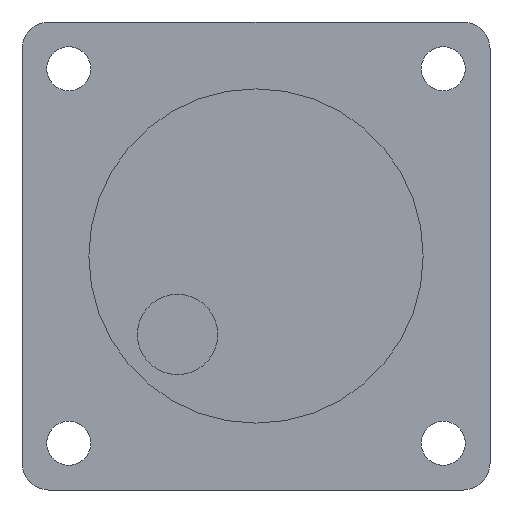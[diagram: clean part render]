
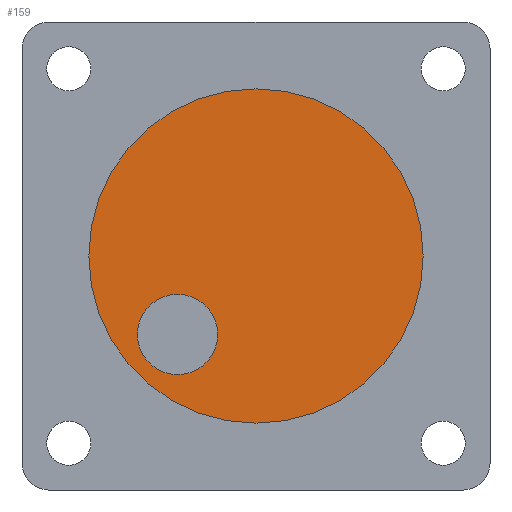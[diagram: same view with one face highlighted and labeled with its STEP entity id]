
A CAD part, front view. The second image highlights one B-rep face of the part: STEP entity #159.
In plain terms, the highlighted planar face has unit normal (0, -1, 0).
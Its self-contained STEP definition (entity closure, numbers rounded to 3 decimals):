
#4 = CARTESIAN_POINT ( 'NONE',  ( -5.869, 0., -5.869 ) ) ;
#32 = DIRECTION ( 'NONE',  ( 0., 1., 0. ) ) ;
#46 = FACE_OUTER_BOUND ( 'NONE', #601, .T. ) ;
#47 = CARTESIAN_POINT ( 'NONE',  ( 0., 0., 0. ) ) ;
#74 = CARTESIAN_POINT ( 'NONE',  ( 0., 0., -12.5 ) ) ;
#75 = ORIENTED_EDGE ( 'NONE', *, *, #848, .F. ) ;
#159 = ADVANCED_FACE ( 'NONE', ( #245, #46 ), #1777, .F. ) ;
#180 = CIRCLE ( 'NONE', #635, 3. ) ;
#185 = CARTESIAN_POINT ( 'NONE',  ( 0., 0., 12.5 ) ) ;
#202 = DIRECTION ( 'NONE',  ( 0., 1., 0. ) ) ;
#222 = EDGE_LOOP ( 'NONE', ( #740, #970 ) ) ;
#245 = FACE_BOUND ( 'NONE', #222, .T. ) ;
#253 = CARTESIAN_POINT ( 'NONE',  ( 0., 0., 0. ) ) ;
#258 = CARTESIAN_POINT ( 'NONE',  ( -5.869, 0., -2.869 ) ) ;
#341 = VERTEX_POINT ( 'NONE', #185 ) ;
#382 = VERTEX_POINT ( 'NONE', #74 ) ;
#419 = CIRCLE ( 'NONE', #505, 3. ) ;
#444 = AXIS2_PLACEMENT_3D ( 'NONE', #253, #1356, #951 ) ;
#488 = CIRCLE ( 'NONE', #1174, 12.5 ) ;
#505 = AXIS2_PLACEMENT_3D ( 'NONE', #1217, #664, #1674 ) ;
#596 = CARTESIAN_POINT ( 'NONE',  ( 0., 0., 0. ) ) ;
#601 = EDGE_LOOP ( 'NONE', ( #1720, #75 ) ) ;
#635 = AXIS2_PLACEMENT_3D ( 'NONE', #4, #1530, #708 ) ;
#664 = DIRECTION ( 'NONE',  ( 0., -1., 0. ) ) ;
#708 = DIRECTION ( 'NONE',  ( 0., 0., 1. ) ) ;
#740 = ORIENTED_EDGE ( 'NONE', *, *, #1550, .F. ) ;
#848 = EDGE_CURVE ( 'NONE', #341, #382, #488, .T. ) ;
#951 = DIRECTION ( 'NONE',  ( 0., 0., 1. ) ) ;
#970 = ORIENTED_EDGE ( 'NONE', *, *, #1182, .F. ) ;
#1029 = DIRECTION ( 'NONE',  ( 0., 0., 1. ) ) ;
#1056 = VERTEX_POINT ( 'NONE', #258 ) ;
#1122 = AXIS2_PLACEMENT_3D ( 'NONE', #47, #202, #1029 ) ;
#1170 = DIRECTION ( 'NONE',  ( 0., 0., 1. ) ) ;
#1174 = AXIS2_PLACEMENT_3D ( 'NONE', #596, #32, #1170 ) ;
#1182 = EDGE_CURVE ( 'NONE', #1814, #1056, #180, .T. ) ;
#1217 = CARTESIAN_POINT ( 'NONE',  ( -5.869, 0., -5.869 ) ) ;
#1296 = CARTESIAN_POINT ( 'NONE',  ( -5.869, 0., -8.869 ) ) ;
#1328 = CIRCLE ( 'NONE', #1122, 12.5 ) ;
#1356 = DIRECTION ( 'NONE',  ( 0., 1., 0. ) ) ;
#1360 = EDGE_CURVE ( 'NONE', #382, #341, #1328, .T. ) ;
#1530 = DIRECTION ( 'NONE',  ( 0., -1., 0. ) ) ;
#1550 = EDGE_CURVE ( 'NONE', #1056, #1814, #419, .T. ) ;
#1674 = DIRECTION ( 'NONE',  ( 0., 0., 1. ) ) ;
#1720 = ORIENTED_EDGE ( 'NONE', *, *, #1360, .F. ) ;
#1777 = PLANE ( 'NONE',  #444 ) ;
#1814 = VERTEX_POINT ( 'NONE', #1296 ) ;
